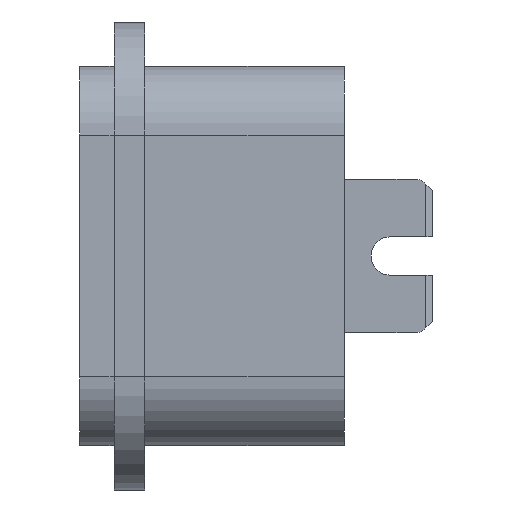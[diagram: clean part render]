
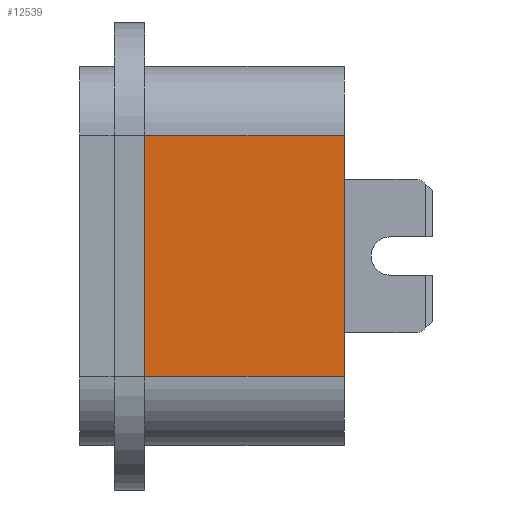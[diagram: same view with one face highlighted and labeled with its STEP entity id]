
A CAD part, left-side view. The second image highlights one B-rep face of the part: STEP entity #12539.
In plain terms, the highlighted planar face has unit normal (-1, 0, 0).
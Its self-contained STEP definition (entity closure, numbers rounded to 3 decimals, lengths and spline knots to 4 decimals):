
#10861=FACE_OUTER_BOUND('',#15697,.T.);
#12539=ADVANCED_FACE('53',(#10861),#14103,.T.);
#14103=PLANE('',#41095);
#15697=EDGE_LOOP('',(#19293,#19294,#19295,#19296));
#19293=ORIENTED_EDGE('',*,*,#30731,.T.);
#19294=ORIENTED_EDGE('',*,*,#30111,.T.);
#19295=ORIENTED_EDGE('',*,*,#30689,.F.);
#19296=ORIENTED_EDGE('',*,*,#30729,.T.);
#26881=VERTEX_POINT('',#55234);
#26882=VERTEX_POINT('',#55235);
#27245=VERTEX_POINT('',#56394);
#27274=VERTEX_POINT('',#56472);
#30111=EDGE_CURVE('',#26881,#26882,#34453,.T.);
#30689=EDGE_CURVE('',#27245,#26882,#34993,.T.);
#30729=EDGE_CURVE('',#27245,#27274,#35018,.T.);
#30731=EDGE_CURVE('',#27274,#26881,#35020,.T.);
#34453=LINE('',#55233,#37765);
#34993=LINE('',#56393,#38305);
#35018=LINE('',#56473,#38330);
#35020=LINE('',#56477,#38332);
#37765=VECTOR('',#44474,1.);
#38305=VECTOR('',#45526,1.);
#38330=VECTOR('',#45601,1.);
#38332=VECTOR('',#45607,1.);
#41095=AXIS2_PLACEMENT_3D('',#56478,#45608,#45609);
#44474=DIRECTION('',(0.,0.,1.));
#45526=DIRECTION('',(0.,-1.,0.));
#45601=DIRECTION('',(0.,0.,-1.));
#45607=DIRECTION('',(0.,-1.,0.));
#45608=DIRECTION('',(-1.,0.,0.));
#45609=DIRECTION('',(0.,0.,1.));
#55233=CARTESIAN_POINT('',(-18.55,0.,-3.15));
#55234=CARTESIAN_POINT('',(-18.55,0.,-3.15));
#55235=CARTESIAN_POINT('',(-18.55,0.,3.15));
#56393=CARTESIAN_POINT('',(-18.55,5.2,3.15));
#56394=CARTESIAN_POINT('',(-18.55,5.2,3.15));
#56472=CARTESIAN_POINT('',(-18.55,5.2,-3.15));
#56473=CARTESIAN_POINT('',(-18.55,5.2,3.15));
#56477=CARTESIAN_POINT('',(-18.55,5.2,-3.15));
#56478=CARTESIAN_POINT('',(-18.55,0.,-4.95));
